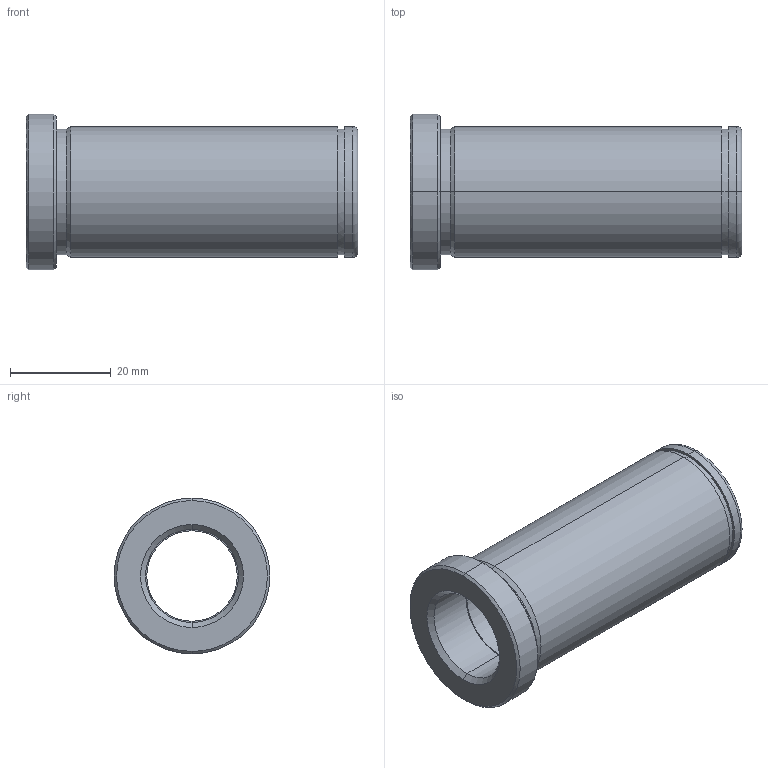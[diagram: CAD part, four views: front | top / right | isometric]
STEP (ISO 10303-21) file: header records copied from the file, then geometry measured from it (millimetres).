
FILE_DESCRIPTION(('CATIA V5 STEP Exchange'),'2;1');
FILE_NAME('C:\Users\Utente\Desktop\IO LAVORO\3D X SITO CF\X SITO\PLASTICA\553\553-18X66.stp','2021-05-23T17:28:12+00:00',('none'),('none'),'CATIA Version 5 Release 20 GA (IN-10)','CATIA V5 STEP AP203','none');
FILE_SCHEMA(('CONFIG_CONTROL_DESIGN'));
Length unit declared in the file: millimetre
Products named in the file (1): 553-18X66
Bounding box: 66 x 31 x 31 mm (x, y, z)
Volume: 19196.6 mm3; surface area: 10191.6 mm2
Topology: 1 solids, 1 shells, 32 faces, 102 edges, 76 vertices
Faces by surface type: cylinder 14, cone 8, plane 6, torus 4
Entity records: 1334 total; most frequent: CARTESIAN_POINT 389, ORIENTED_EDGE 204, DIRECTION 152, EDGE_CURVE 102, AXIS2_PLACEMENT_3D 99, VERTEX_POINT 76, CIRCLE 66, EDGE_LOOP 38
